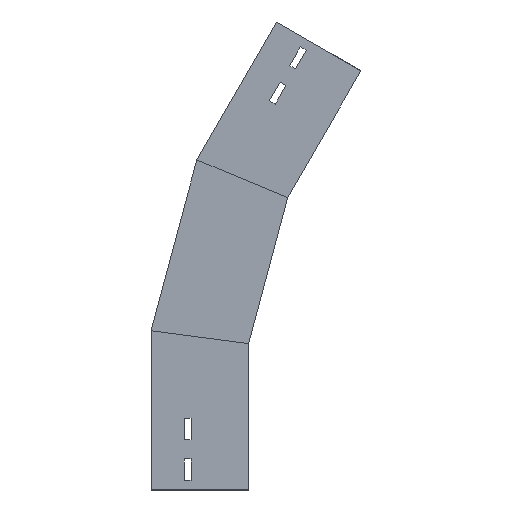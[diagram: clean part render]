
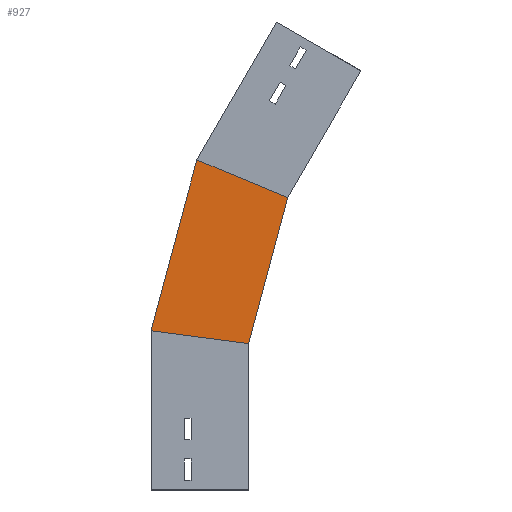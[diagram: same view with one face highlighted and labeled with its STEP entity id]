
A CAD part, left-side view. The second image highlights one B-rep face of the part: STEP entity #927.
In plain terms, the highlighted planar face has unit normal (-1, 0, 0) as drawn and (1, 0, 0) by its records, which use the part's own axes.
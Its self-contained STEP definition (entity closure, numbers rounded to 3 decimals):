
#12 = VECTOR ( 'NONE', #678, 1000. ) ;
#16 = LINE ( 'NONE', #841, #193 ) ;
#29 = CARTESIAN_POINT ( 'NONE',  ( 0., 3.774, 135.915 ) ) ;
#63 = DIRECTION ( 'NONE',  ( 1., 0., 0. ) ) ;
#90 = ORIENTED_EDGE ( 'NONE', *, *, #494, .T. ) ;
#105 = VERTEX_POINT ( 'NONE', #452 ) ;
#116 = LINE ( 'NONE', #696, #1376 ) ;
#193 = VECTOR ( 'NONE', #1306, 1000. ) ;
#236 = EDGE_CURVE ( 'NONE', #1454, #1014, #16, .T. ) ;
#314 = VERTEX_POINT ( 'NONE', #1108 ) ;
#452 = CARTESIAN_POINT ( 'NONE',  ( 0., 53.068, 338.317 ) ) ;
#494 = EDGE_CURVE ( 'NONE', #1454, #105, #1130, .T. ) ;
#572 = CARTESIAN_POINT ( 'NONE',  ( 0., 100., 163.165 ) ) ;
#573 = EDGE_CURVE ( 'NONE', #1014, #314, #1405, .T. ) ;
#588 = ORIENTED_EDGE ( 'NONE', *, *, #1465, .T. ) ;
#640 = FACE_OUTER_BOUND ( 'NONE', #722, .T. ) ;
#678 = DIRECTION ( 'NONE',  ( 0., -0.259, 0.966 ) ) ;
#696 = CARTESIAN_POINT ( 'NONE',  ( 0., -60.567, 291.248 ) ) ;
#722 = EDGE_LOOP ( 'NONE', ( #90, #588, #789, #1223 ) ) ;
#789 = ORIENTED_EDGE ( 'NONE', *, *, #573, .F. ) ;
#841 = CARTESIAN_POINT ( 'NONE',  ( 0., -19.411, 147.444 ) ) ;
#890 = CARTESIAN_POINT ( 'NONE',  ( 0., 3.774, 135.915 ) ) ;
#927 = ADVANCED_FACE ( 'NONE', ( #640 ), #1100, .T. ) ;
#1014 = VERTEX_POINT ( 'NONE', #1133 ) ;
#1032 = DIRECTION ( 'NONE',  ( 0., -0.924, -0.383 ) ) ;
#1093 = AXIS2_PLACEMENT_3D ( 'NONE', #890, #63, #1436 ) ;
#1096 = DIRECTION ( 'NONE',  ( 0., -0.259, 0.966 ) ) ;
#1100 = PLANE ( 'NONE',  #1093 ) ;
#1108 = CARTESIAN_POINT ( 'NONE',  ( 0., -40.117, 299.719 ) ) ;
#1130 = LINE ( 'NONE', #1352, #12 ) ;
#1133 = CARTESIAN_POINT ( 'NONE',  ( 0., 0., 150. ) ) ;
#1223 = ORIENTED_EDGE ( 'NONE', *, *, #236, .F. ) ;
#1306 = DIRECTION ( 'NONE',  ( 0., -0.991, -0.131 ) ) ;
#1352 = CARTESIAN_POINT ( 'NONE',  ( 0., 100.367, 161.797 ) ) ;
#1376 = VECTOR ( 'NONE', #1032, 1000. ) ;
#1405 = LINE ( 'NONE', #29, #1471 ) ;
#1436 = DIRECTION ( 'NONE',  ( 0., 0., -1. ) ) ;
#1454 = VERTEX_POINT ( 'NONE', #572 ) ;
#1465 = EDGE_CURVE ( 'NONE', #105, #314, #116, .T. ) ;
#1471 = VECTOR ( 'NONE', #1096, 1000. ) ;
